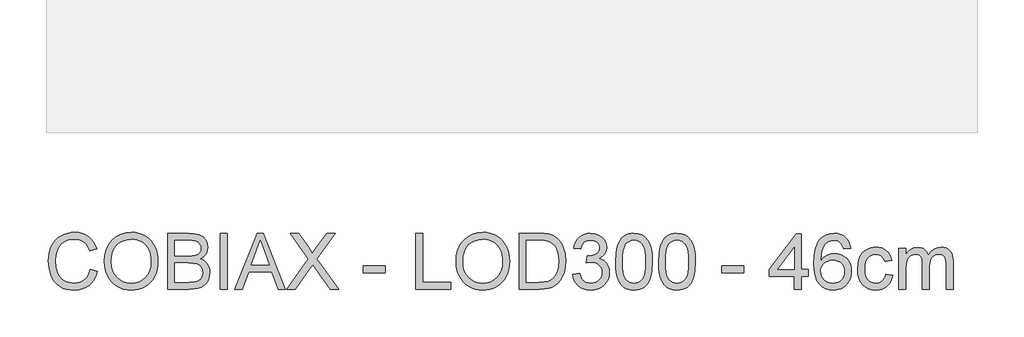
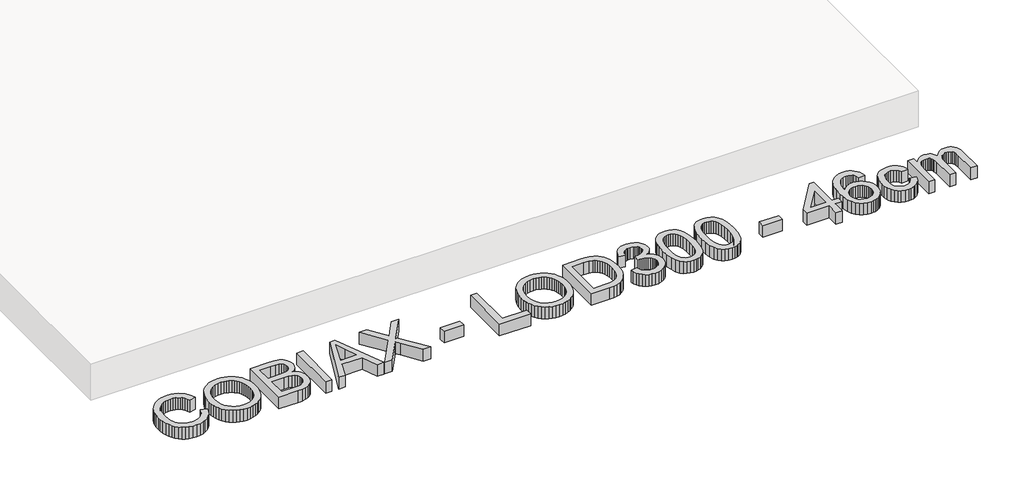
# One storey, part 10 of 18: 1 proxy.
"""IFC4 building model written with IfcOpenShell, lengths in millimetres."""

from ifc_helpers import new_model, si_unit, origin, origin_with_axes, place, context, project, spatial, polyline, outline, extrude, element, save

model = new_model("IFC4")

# Units and contexts
model_context = context("Model", 3, world=origin())
ifc_project = project(units=[si_unit("LENGTHUNIT", "METRE", prefix="MILLI")], contexts=[model_context])

# Site, building, storey
site = spatial("IfcSite", under=ifc_project)
building = spatial("IfcBuilding", under=site)
storey = spatial("IfcBuildingStorey", under=building, Name="COBIAX Slabs", Elevation=0.0)

# Proxy
placement = place(None, origin())
element("IfcBuildingElementProxy", 1, Name="600mm Arial", ObjectType="600mm Arial", at=placement, inside=storey, context=model_context, shape_type="SweptSolid", body=[
    extrude(outline(polyline([(9798.2153953, -42620.9127725), (9873.5576279, -42640.3369419), (9858.64921, -42687.1913125), (9838.7927794, -42728.13198), (9813.9883358, -42763.1589445), (9784.2358795, -42792.2722059), (9750.2067949, -42815.1590645), (9712.5724668, -42831.5068207), (9671.3328952, -42841.3154744), (9626.4880799, -42844.5850256), (9580.5442173, -42842.1110192), (9539.097712, -42834.6889999), (9502.1485641, -42822.3189678), (9469.6967736, -42805.0009229), (9441.2962836, -42782.9923826), (9416.5010371, -42756.5508642), (9395.3110342, -42725.6763677), (9377.7262748, -42690.3688932), (9363.9169044, -42652.155151), (9354.0530684, -42612.5618512), (9348.1347668, -42571.588994), (9346.1619996, -42529.2365793), (9348.3922842, -42483.7939559), (9355.083138, -42441.3495707), (9366.234561, -42401.9034238), (9381.8465531, -42365.4555151), (9401.5696266, -42332.6082514), (9425.0542935, -42303.9640396), (9452.3005538, -42279.5228795), (9483.3084074, -42259.2847713), (9517.0247923, -42243.4152617), (9552.3966461, -42232.0798977), (9589.4239689, -42225.2786793), (9628.1067607, -42223.0116065), (9671.1995379, -42225.9454655), (9710.7146627, -42234.7470422), (9746.6521351, -42249.4163368), (9779.0119551, -42269.9533491), (9807.2606938, -42295.8154534), (9830.8649224, -42326.4600236), (9849.8246407, -42361.8870597), (9864.1398488, -42402.0965618), (9788.7976162, -42420.0492032), (9776.9334219, -42390.420907), (9762.6779946, -42365.1060272), (9746.0313343, -42344.1045638), (9726.993441, -42327.4165168), (9705.4539502, -42314.7015953), (9681.3024972, -42305.6195086), (9654.5390821, -42300.1702565), (9625.1637048, -42298.3538392), (9591.3645465, -42300.3679931), (9560.4532618, -42306.4104549), (9532.4298508, -42316.4812245), (9507.2943135, -42330.5803019), (9485.3639481, -42348.0730908), (9466.9560527, -42368.3249946), (9452.0706275, -42391.3360134), (9440.7076724, -42417.1061472), (9426.3050923, -42472.2516583), (9421.5042322, -42529.0894265), (9427.1880091, -42598.6927), (9434.2927301, -42629.9626696), (9444.2393395, -42658.8781944), (9457.1887858, -42684.8644589), (9473.3020171, -42707.3466473), (9492.5790337, -42726.3247597), (9515.0198354, -42741.7987961), (9539.5345719, -42753.8055448), (9565.0333926, -42762.3817938), (9591.5162978, -42767.5275432), (9618.9832872, -42769.242793), (9651.7385804, -42766.9067423), (9681.8727143, -42759.8985903), (9709.385689, -42748.218337), (9734.2775045, -42731.8659823), (9755.9595496, -42710.9151027), (9773.8432131, -42685.4392745), (9787.928495, -42655.4384978), (9798.2153953, -42620.9127725)])), origin_with_axes(), (0.0, 0.0, 1.0), 150.0),
    extrude(outline(polyline([(9948.8998605, -42541.7445672), (9953.9214497, -42471.0468447), (9968.9862175, -42408.4609203), (9994.0941636, -42353.9867939), (10010.4143286, -42329.7916549), (10029.2452883, -42307.6244654), (10072.3334669, -42270.6063397), (10121.2525753, -42244.1648213), (10176.0026132, -42228.2999102), (10236.5835807, -42223.0116065), (10277.1333737, -42225.49481), (10315.6414215, -42232.9444204), (10352.1077243, -42245.3604378), (10386.532282, -42262.742862), (10417.9494044, -42284.5674614), (10445.3934012, -42310.310004), (10468.8642725, -42339.9704899), (10488.3620182, -42373.548919), (10503.6843033, -42410.2819362), (10514.6287927, -42449.4061864), (10521.1954863, -42490.9216695), (10523.3843842, -42534.8283857), (10521.0805232, -42579.3145159), (10514.1689402, -42621.3910191), (10502.6496352, -42661.0578953), (10486.5226083, -42698.3151443), (10466.1695369, -42732.178682), (10441.9720986, -42761.6644239), (10413.9302936, -42786.7723701), (10382.0441216, -42807.5025205), (10347.5689802, -42823.7261165), (10311.7602665, -42835.3143993), (10274.6179805, -42842.267369), (10236.1421223, -42844.5850256), (10194.8841566, -42842.0236472), (10155.870271, -42834.339512), (10119.1004656, -42821.5326201), (10084.5747403, -42803.6029713), (10053.1944061, -42781.2449431), (10025.8607739, -42755.1529126), (10002.5738436, -42725.3268798), (9983.3336153, -42691.7668448), (9968.2688476, -42655.8201753), (9957.5082992, -42618.8342393), (9951.0519702, -42580.8090365), (9948.8998605, -42541.7445672)]), holes=[polyline([(10024.2420931, -42542.4803312), (10028.0082851, -42592.4295091), (10039.3068608, -42636.7684865), (10058.1378205, -42675.4972636), (10084.5011639, -42708.6158402), (10116.5482842, -42735.140132), (10152.4305743, -42754.0860548), (10192.1480343, -42765.4536084), (10235.700664, -42769.242793), (10279.9982547, -42765.4168202), (10320.1847641, -42753.938902), (10356.2601923, -42734.8090382), (10388.2245392, -42708.027229), (10414.3947446, -42674.2096766), (10433.0877485, -42633.9725834), (10444.3035508, -42587.3159493), (10448.0421516, -42534.2397745), (10446.4418649, -42499.7600345), (10441.6410049, -42467.5427687), (10433.6395715, -42437.5879773), (10422.4375647, -42409.8956601), (10408.1591448, -42384.8291007), (10390.9284718, -42362.7515824), (10370.7455459, -42343.6631054), (10347.6103669, -42327.5636696), (10322.2403048, -42314.7843688), (10295.3527295, -42305.6562968), (10266.9476409, -42300.1794536), (10237.0250391, -42298.3538392), (10194.9853241, -42301.8717107), (10155.9806356, -42312.4253255), (10120.0109735, -42330.0146834), (10087.0763379, -42354.6397844), (10059.5863558, -42387.4870481), (10039.9506543, -42429.7428937), (10028.1692334, -42481.4073214), (10024.2420931, -42542.4803312)])]), origin_with_axes(), (0.0, 0.0, 1.0), 150.0),
    extrude(outline(polyline([(10626.979954, -42835.1672465), (10626.979954, -42232.4293856), (10856.9797774, -42232.4293856), (10920.2370865, -42236.8623637), (10969.6252443, -42250.1612978), (10989.7024042, -42260.2182718), (11007.4803016, -42272.6572818), (11022.9589366, -42287.4783277), (11036.1383091, -42304.6814095), (11054.1829209, -42342.3525258), (11060.1977915, -42381.7894757), (11055.1394141, -42418.0810345), (11039.9642818, -42452.2020895), (11014.56203, -42482.0557135), (10978.8222942, -42505.5449788), (11001.562, -42515.2386694), (11021.5149998, -42527.8386278), (11038.6812934, -42543.3448538), (11053.0608808, -42561.7573477), (11064.423836, -42582.5150893), (11072.5402325, -42605.0570585), (11077.4100704, -42629.3832555), (11079.0333497, -42655.4936801), (11074.6003717, -42697.524198), (11061.3014375, -42736.5012954), (11041.4542039, -42769.6474632), (11017.3763273, -42794.1851923), (10987.8905854, -42811.9538926), (10951.8197558, -42824.7929743), (10907.986616, -42832.5736785), (10855.2139438, -42835.1672465), (10626.979954, -42835.1672465)]), holes=[polyline([(10702.3221866, -42477.2916416), (10839.9100528, -42477.2916416), (10888.0290178, -42475.6729608), (10920.2554806, -42470.8169185), (10948.3800591, -42459.6516999), (10968.5951747, -42442.9314633), (10980.7904629, -42420.9137259), (10984.8555589, -42393.8560051), (10981.0663744, -42367.5892307), (10969.6988207, -42344.7069706), (10951.2679328, -42326.8462997), (10926.2887453, -42315.6442929), (10887.9554414, -42309.7397869), (10829.4622042, -42307.7716182), (10702.3221866, -42307.7716182), (10702.3221866, -42477.2916416)]), polyline([(10702.3221866, -42759.8250139), (10856.8326246, -42759.8250139), (10912.7506879, -42756.8819579), (10938.7047626, -42750.3520525), (10960.0603125, -42740.474421), (10977.4243426, -42726.3293582), (10991.4038584, -42706.9971594), (11000.6193024, -42683.3423471), (11003.6911171, -42656.2294441), (11000.0858735, -42624.7387453), (10989.2701429, -42597.6626304), (10970.3794024, -42576.4910216), (10942.5491295, -42562.7138409), (10903.1305737, -42555.1538659), (10849.4749847, -42552.6338742), (10702.3221866, -42552.6338742), (10702.3221866, -42759.8250139)])]), origin_with_axes(), (0.0, 0.0, 1.0), 150.0),
    extrude(outline(polyline([(11192.0466986, -42835.1672465), (11192.0466986, -42232.4293856), (11267.3889312, -42232.4293856), (11267.3889312, -42835.1672465), (11192.0466986, -42835.1672465)])), origin_with_axes(), (0.0, 0.0, 1.0), 150.0),
    extrude(outline(polyline([(11347.8815118, -42835.1672465), (11588.4763366, -42232.4293856), (11652.6349566, -42232.4293856), (11893.2297814, -42835.1672465), (11813.6201177, -42835.1672465), (11744.6054554, -42646.811665), (11496.358685, -42646.811665), (11427.4911755, -42835.1672465), (11347.8815118, -42835.1672465)]), holes=[polyline([(11524.0234111, -42571.4694324), (11717.0878821, -42571.4694324), (11662.7884996, -42423.2865647), (11620.5556466, -42307.7716182), (11583.0316831, -42410.3371185), (11524.0234111, -42571.4694324)])]), origin_with_axes(), (0.0, 0.0, 1.0), 150.0),
    extrude(outline(polyline([(11907.7979084, -42835.1672465), (12140.1521766, -42506.7222012), (11945.4690247, -42232.4293856), (12035.8208428, -42232.4293856), (12145.4496773, -42386.7926708), (12171.6060872, -42425.8985269), (12182.3850296, -42446.9781652), (12225.6479523, -42385.7626012), (12334.0995644, -42232.4293856), (12425.7757576, -42232.4293856), (12231.0926058, -42507.605118), (12463.4468739, -42835.1672465), (12373.0950559, -42835.1672465), (12218.2903124, -42616.7924942), (12186.0638496, -42571.4694324), (12150.6000252, -42621.2070781), (11999.4741016, -42835.1672465), (11907.7979084, -42835.1672465)])), origin_with_axes(), (0.0, 0.0, 1.0), 150.0),
    extrude(outline(polyline([(12727.1446881, -42656.2294441), (12727.1446881, -42580.8872115), (12962.589165, -42580.8872115), (12962.589165, -42656.2294441), (12727.1446881, -42656.2294441)])), origin_with_axes(), (0.0, 0.0, 1.0), 150.0),
    extrude(outline(polyline([(13292.2114327, -42835.1672465), (13292.2114327, -42232.4293856), (13367.5536653, -42232.4293856), (13367.5536653, -42759.8250139), (13668.9225957, -42759.8250139), (13668.9225957, -42835.1672465), (13292.2114327, -42835.1672465)])), origin_with_axes(), (0.0, 0.0, 1.0), 150.0),
    extrude(outline(polyline([(13725.4292702, -42541.7445672), (13730.4508594, -42471.0468447), (13745.5156271, -42408.4609203), (13770.6235733, -42353.9867939), (13786.9437383, -42329.7916549), (13805.7746979, -42307.6244654), (13848.8628766, -42270.6063397), (13897.7819849, -42244.1648213), (13952.5320229, -42228.2999102), (14013.1129904, -42223.0116065), (14053.6627833, -42225.49481), (14092.1708312, -42232.9444204), (14128.637134, -42245.3604378), (14163.0616917, -42262.742862), (14194.4788141, -42284.5674614), (14221.9228109, -42310.310004), (14245.3936822, -42339.9704899), (14264.8914279, -42373.548919), (14280.213713, -42410.2819362), (14291.1582024, -42449.4061864), (14297.724896, -42490.9216695), (14299.9137939, -42534.8283857), (14297.6099329, -42579.3145159), (14290.6983499, -42621.3910191), (14279.1790449, -42661.0578953), (14263.052018, -42698.3151443), (14242.6989466, -42732.178682), (14218.5015083, -42761.6644239), (14190.4597033, -42786.7723701), (14158.5735313, -42807.5025205), (14124.0983898, -42823.7261165), (14088.2896761, -42835.3143993), (14051.1473902, -42842.267369), (14012.671532, -42844.5850256), (13971.4135663, -42842.0236472), (13932.3996807, -42834.339512), (13895.6298753, -42821.5326201), (13861.10415, -42803.6029713), (13829.7238158, -42781.2449431), (13802.3901836, -42755.1529126), (13779.1032533, -42725.3268798), (13759.8630249, -42691.7668448), (13744.7982572, -42655.8201753), (13734.0377089, -42618.8342393), (13727.5813799, -42580.8090365), (13725.4292702, -42541.7445672)]), holes=[polyline([(13800.7715028, -42542.4803312), (13804.5376947, -42592.4295091), (13815.8362705, -42636.7684865), (13834.6672301, -42675.4972636), (13861.0305736, -42708.6158402), (13893.0776939, -42735.140132), (13928.959984, -42754.0860548), (13968.6774439, -42765.4536084), (14012.2300736, -42769.242793), (14056.5276644, -42765.4168202), (14096.7141738, -42753.938902), (14132.789602, -42734.8090382), (14164.7539488, -42708.027229), (14190.9241543, -42674.2096766), (14209.6171582, -42633.9725834), (14220.8329605, -42587.3159493), (14224.5715613, -42534.2397745), (14222.9712746, -42499.7600345), (14218.1704145, -42467.5427687), (14210.1689811, -42437.5879773), (14198.9669744, -42409.8956601), (14184.6885545, -42384.8291007), (14167.4578815, -42362.7515824), (14147.2749555, -42343.6631054), (14124.1397766, -42327.5636696), (14098.7697145, -42314.7843688), (14071.8821392, -42305.6562968), (14043.4770506, -42300.1794536), (14013.5544488, -42298.3538392), (13971.5147338, -42301.8717107), (13932.5100453, -42312.4253255), (13896.5403832, -42330.0146834), (13863.6057476, -42354.6397844), (13836.1157655, -42387.4870481), (13816.480064, -42429.7428937), (13804.6986431, -42481.4073214), (13800.7715028, -42542.4803312)])]), origin_with_axes(), (0.0, 0.0, 1.0), 150.0),
    extrude(outline(polyline([(14403.5093637, -42835.1672465), (14403.5093637, -42232.4293856), (14611.4362674, -42232.4293856), (14673.5715364, -42234.5998894), (14719.0049628, -42241.1114007), (14767.0503513, -42257.8500315), (14807.5909472, -42284.2271705), (14829.9305814, -42305.7850555), (14849.2719773, -42330.1388435), (14865.6151349, -42357.2885348), (14878.9600543, -42387.2341292), (14889.3251295, -42419.6997153), (14896.7287546, -42454.4093815), (14902.6516548, -42530.5609545), (14898.641741, -42595.2530034), (14886.6119998, -42652.1827421), (14868.2914764, -42700.651195), (14845.4092163, -42739.9593862), (14819.0688655, -42770.9902325), (14790.3740698, -42794.6266507), (14757.4302372, -42812.1562277), (14718.3427752, -42824.8665507), (14673.0381075, -42832.5920726), (14621.4426577, -42835.1672465), (14403.5093637, -42835.1672465)]), holes=[polyline([(14478.8515963, -42759.8250139), (14612.1720314, -42759.8250139), (14667.3175425, -42757.1026871), (14709.1457253, -42748.9357069), (14740.7100005, -42735.8023196), (14765.0637886, -42718.1807721), (14791.2385925, -42685.5680332), (14810.9018852, -42643.3535742), (14823.2075379, -42591.3534542), (14827.3094222, -42529.3837321), (14825.2998668, -42485.6425629), (14819.2712006, -42447.2724708), (14809.2234236, -42414.2734558), (14795.1565358, -42386.645518), (14778.2109714, -42363.7632579), (14759.5271645, -42345.0012761), (14739.1051153, -42330.3595727), (14716.9448236, -42319.8381477), (14673.6083246, -42310.7882506), (14610.1118922, -42307.7716182), (14478.8515963, -42307.7716182), (14478.8515963, -42759.8250139)])]), origin_with_axes(), (0.0, 0.0, 1.0), 150.0),
    extrude(outline(polyline([(14977.9938874, -42675.0650022), (15053.33612, -42665.6472231), (15070.2035095, -42712.9936359), (15081.5756616, -42730.900292), (15094.9067854, -42744.9625813), (15110.5003835, -42755.5851739), (15128.6599585, -42763.1727401), (15149.3855104, -42767.7252798), (15172.6770392, -42769.242793), (15199.9738833, -42767.1550627), (15224.3276713, -42760.8918717), (15245.7384035, -42750.4532201), (15264.2060796, -42735.8391078), (15279.0777093, -42718.1439839), (15289.7003019, -42698.4622971), (15296.0738575, -42676.7940476), (15298.198376, -42653.1392353), (15296.0922516, -42630.6110616), (15289.7738783, -42610.115436), (15279.2432562, -42591.6523583), (15264.5003852, -42575.2218287), (15246.5109557, -42561.7343551), (15226.2406577, -42552.1004453), (15203.6894914, -42546.3200995), (15178.8574567, -42544.3933175), (15155.0554917, -42546.4534567), (15126.0296022, -42552.6338742), (15134.4173117, -42477.2916416), (15146.4838412, -42478.1745584), (15191.622962, -42472.7666931), (15231.9796168, -42456.5430971), (15248.5894889, -42444.2742325), (15260.4536833, -42429.0991002), (15267.5721999, -42411.0177002), (15269.9450388, -42390.0300324), (15268.2251904, -42372.9924975), (15263.0656454, -42357.4908699), (15254.4664038, -42343.5251496), (15242.4274655, -42331.0953367), (15227.6753975, -42320.8912099), (15210.9367667, -42313.6025479), (15171.4998168, -42307.7716182), (15150.8432428, -42309.2431462), (15131.9892906, -42313.6577302), (15114.9379601, -42321.0153701), (15099.6892514, -42331.3160659), (15086.6202435, -42344.5598178), (15076.1080155, -42360.7466255), (15068.1525673, -42379.8764893), (15062.7538991, -42401.949409), (14987.4116665, -42392.5316299), (14996.3420019, -42356.5619678), (15009.5949508, -42324.878131), (15027.1705131, -42297.4801194), (15049.0686888, -42274.3679331), (15074.5996993, -42256.0198186), (15103.0737657, -42242.9140225), (15134.4908881, -42235.0505448), (15168.8510665, -42232.4293856), (15216.2158734, -42237.5981277), (15259.7179193, -42253.1043538), (15296.3957542, -42277.5685064), (15323.2879281, -42309.6110282), (15339.7874355, -42346.5279864), (15345.2872714, -42385.6154484), (15340.063347, -42422.0357659), (15324.391574, -42455.0715691), (15298.4926816, -42483.2145417), (15262.5873988, -42504.9563677), (15287.695345, -42512.8106482), (15309.7498706, -42524.012655), (15328.7509757, -42538.5623879), (15344.6986602, -42556.459847), (15357.3170126, -42577.2635738), (15366.3301215, -42600.53211), (15371.7379868, -42626.2654556), (15373.5406086, -42654.4636105), (15369.935365, -42692.6865498), (15359.1196344, -42727.8928567), (15341.0934166, -42760.0825313), (15315.8567117, -42789.2555735), (15285.110974, -42813.4622088), (15250.5576576, -42830.7526626), (15212.1967626, -42841.1269348), (15170.0282889, -42844.5850256), (15131.9157142, -42841.6327726), (15097.1876538, -42832.7760136), (15065.8441078, -42818.0147485), (15037.8850762, -42797.3489774), (15014.4417961, -42771.9927109), (14996.6455045, -42743.1599595), (14984.4962016, -42710.8507233), (14977.9938874, -42675.0650022)])), origin_with_axes(), (0.0, 0.0, 1.0), 150.0),
    extrude(outline(polyline([(15439.4650621, -42538.6543584), (15445.0016862, -42442.1773052), (15451.9224662, -42401.2642288), (15461.6115582, -42365.2347859), (15474.0275756, -42333.7946709), (15489.1291315, -42306.6495782), (15506.9162259, -42283.7995077), (15527.388859, -42265.2444596), (15550.6160084, -42250.8878647), (15576.6666522, -42240.6331541), (15605.5407903, -42234.4803277), (15637.2384227, -42232.4293856), (15683.6651305, -42237.285428), (15725.235796, -42251.853555), (15760.0006445, -42275.5635496), (15786.0099016, -42307.8451946), (15805.6548001, -42348.4225787), (15821.3265731, -42397.0197903), (15831.5904808, -42458.731995), (15835.0117833, -42538.6543584), (15829.5303416, -42634.5795887), (15822.6785395, -42675.3547093), (15813.0860164, -42711.3381669), (15800.7665681, -42742.7920775), (15785.7339901, -42769.978557), (15767.9882823, -42792.8976053), (15747.5294449, -42811.5492224), (15724.2747043, -42826.0023863), (15698.141287, -42836.3260748), (15669.1291932, -42842.5202879), (15637.2384227, -42844.5850256), (15595.7413337, -42840.9981761), (15558.9531342, -42830.2376278), (15526.8738242, -42812.3033805), (15499.5034037, -42787.1954344), (15473.2366293, -42741.8079932), (15454.4746475, -42685.2553335), (15443.2174585, -42617.5374552), (15439.4650621, -42538.6543584)]), holes=[polyline([(15514.8072947, -42538.5072056), (15517.0145867, -42604.0039963), (15523.6364626, -42657.0203904), (15534.6729225, -42697.5563877), (15550.1239663, -42725.6119884), (15568.8123716, -42744.7004654), (15589.5609162, -42758.3350918), (15612.3695999, -42766.5158677), (15637.2384227, -42769.242793), (15662.1072456, -42766.5066706), (15684.9159293, -42758.2983036), (15705.6644738, -42744.6176919), (15724.3528792, -42725.4648356), (15739.803923, -42697.3632497), (15750.8403828, -42656.8364494), (15757.4622588, -42603.8844347), (15759.6695507, -42538.5072056), (15757.5358352, -42474.7440588), (15751.1346884, -42422.6611653), (15740.4661106, -42382.2585252), (15725.5301016, -42353.5361384), (15707.1543959, -42333.5141608), (15686.1667281, -42319.2127483), (15662.5670981, -42310.6319007), (15636.3555059, -42307.7716182), (15611.6154418, -42310.2916099), (15589.1930342, -42317.8515849), (15569.0882831, -42330.4515432), (15551.3011887, -42348.0914849), (15535.3351101, -42379.3614545), (15523.9307682, -42421.5207311), (15517.0881631, -42474.5693149), (15514.8072947, -42538.5072056)])]), origin_with_axes(), (0.0, 0.0, 1.0), 150.0),
    extrude(outline(polyline([(15900.9362369, -42538.6543584), (15906.4728609, -42442.1773052), (15913.3936409, -42401.2642288), (15923.082733, -42365.2347859), (15935.4987503, -42333.7946709), (15950.6003062, -42306.6495782), (15968.3874007, -42283.7995077), (15988.8600337, -42265.2444596), (16012.0871832, -42250.8878647), (16038.137827, -42240.6331541), (16067.0119651, -42234.4803277), (16098.7095975, -42232.4293856), (16145.1363053, -42237.285428), (16186.7069707, -42251.853555), (16221.4718193, -42275.5635496), (16247.4810763, -42307.8451946), (16267.1259749, -42348.4225787), (16282.7977479, -42397.0197903), (16293.0616555, -42458.731995), (16296.4829581, -42538.6543584), (16291.0015164, -42634.5795887), (16284.1497142, -42675.3547093), (16274.5571912, -42711.3381669), (16262.2377429, -42742.7920775), (16247.2051648, -42769.978557), (16229.4594571, -42792.8976053), (16209.0006196, -42811.5492224), (16185.745879, -42826.0023863), (16159.6124618, -42836.3260748), (16130.6003679, -42842.5202879), (16098.7095975, -42844.5850256), (16057.2125084, -42840.9981761), (16020.4243089, -42830.2376278), (15988.3449989, -42812.3033805), (15960.9745785, -42787.1954344), (15934.707804, -42741.8079932), (15915.9458223, -42685.2553335), (15904.6886332, -42617.5374552), (15900.9362369, -42538.6543584)]), holes=[polyline([(15976.2784695, -42538.5072056), (15978.4857615, -42604.0039963), (15985.1076374, -42657.0203904), (15996.1440972, -42697.5563877), (16011.595141, -42725.6119884), (16030.2835464, -42744.7004654), (16051.0320909, -42758.3350918), (16073.8407746, -42766.5158677), (16098.7095975, -42769.242793), (16123.5784204, -42766.5066706), (16146.3871041, -42758.2983036), (16167.1356486, -42744.6176919), (16185.8240539, -42725.4648356), (16201.2750977, -42697.3632497), (16212.3115576, -42656.8364494), (16218.9334335, -42603.8844347), (16221.1407255, -42538.5072056), (16219.0070099, -42474.7440588), (16212.6058632, -42422.6611653), (16201.9372853, -42382.2585252), (16187.0012763, -42353.5361384), (16168.6255707, -42333.5141608), (16147.6379028, -42319.2127483), (16124.0382729, -42310.6319007), (16097.8266807, -42307.7716182), (16073.0866165, -42310.2916099), (16050.6642089, -42317.8515849), (16030.5594579, -42330.4515432), (16012.7723634, -42348.0914849), (15996.8062848, -42379.3614545), (15985.401943, -42421.5207311), (15978.5593379, -42474.5693149), (15976.2784695, -42538.5072056)])]), origin_with_axes(), (0.0, 0.0, 1.0), 150.0),
    extrude(outline(polyline([(16579.0163304, -42656.2294441), (16579.0163304, -42580.8872115), (16814.4608073, -42580.8872115), (16814.4608073, -42656.2294441), (16579.0163304, -42656.2294441)])), origin_with_axes(), (0.0, 0.0, 1.0), 150.0),
    extrude(outline(polyline([(17360.6919937, -42835.1672465), (17360.6919937, -42693.9005604), (17087.5764005, -42693.9005604), (17087.5764005, -42618.5583278), (17379.5275519, -42241.8471647), (17436.0342264, -42241.8471647), (17436.0342264, -42618.5583278), (17511.376459, -42618.5583278), (17511.376459, -42693.9005604), (17436.0342264, -42693.9005604), (17436.0342264, -42835.1672465), (17360.6919937, -42835.1672465)]), holes=[polyline([(17360.6919937, -42618.5583278), (17360.6919937, -42385.7626012), (17180.2826633, -42618.5583278), (17360.6919937, -42618.5583278)])]), origin_with_axes(), (0.0, 0.0, 1.0), 150.0),
    extrude(outline(polyline([(17963.4298546, -42392.5316299), (17888.087622, -42401.949409), (17875.9475162, -42364.6093865), (17859.5399792, -42339.1151642), (17843.3439744, -42325.4023629), (17825.3637418, -42315.6075047), (17805.5992817, -42309.7305899), (17784.0505938, -42307.7716182), (17749.0282278, -42312.333355), (17716.0660011, -42326.0185652), (17687.7574816, -42354.8421195), (17664.6360982, -42394.5181927), (17655.5999966, -42419.8238754), (17649.0195075, -42450.6385911), (17643.225366, -42528.7951209), (17673.4468719, -42493.5336317), (17709.6648544, -42468.6832029), (17749.8559623, -42453.949529), (17791.9968449, -42449.0383044), (17828.1964332, -42452.3952276), (17861.6001184, -42462.4659972), (17892.2079004, -42479.2506132), (17920.0197792, -42502.7490757), (17943.1319656, -42531.563433), (17959.6406701, -42564.2957335), (17969.5458928, -42600.9459772), (17972.8476337, -42641.5141643), (17971.2933323, -42668.9811537), (17966.630428, -42695.4640589), (17958.8589208, -42720.9628796), (17947.9788108, -42745.4776161), (17934.3763741, -42768.0931618), (17918.4378866, -42787.8944101), (17900.1633485, -42804.8813613), (17879.5527597, -42819.0540151), (17857.0475787, -42830.2238322), (17833.0892637, -42838.202273), (17807.6778149, -42842.9893374), (17780.8132322, -42844.5850256), (17735.8994391, -42840.3543827), (17695.3358507, -42827.6624538), (17659.1224668, -42806.5092391), (17627.2592874, -42776.8947385), (17601.2822201, -42737.5681532), (17582.7271719, -42687.2786845), (17571.5941431, -42626.0263323), (17567.8831334, -42553.8110966), (17572.0034118, -42472.8494665), (17584.3642468, -42403.7520308), (17604.9656385, -42346.5187894), (17618.3565432, -42322.3512416), (17633.807587, -42301.1497423), (17665.0683595, -42271.0845863), (17701.3139331, -42249.6094748), (17742.5443077, -42236.7244079), (17788.7594833, -42232.4293856), (17823.4599525, -42235.087333), (17854.8678779, -42243.0611753), (17882.9832593, -42256.3509124), (17907.806097, -42274.9565443), (17928.6650061, -42298.2526716), (17944.8886021, -42325.613895), (17956.4768849, -42357.0402144), (17963.4298546, -42392.5316299)]), holes=[polyline([(17643.225366, -42640.3369419), (17647.5847677, -42673.7222329), (17660.6629726, -42705.5992078), (17680.9700587, -42733.0064165), (17707.016104, -42752.9824088), (17738.4516205, -42765.1776969), (17774.9271203, -42769.242793), (17801.1157198, -42767.1366686), (17824.646372, -42760.8182953), (17845.5190767, -42750.2876732), (17863.7338339, -42735.5448022), (17878.5088946, -42717.1874907), (17889.0625093, -42695.8135467), (17895.3946782, -42671.4229705), (17897.5054011, -42644.0157618), (17895.4222693, -42617.6800095), (17889.1728739, -42594.2965102), (17878.7572149, -42573.8652639), (17864.1752923, -42556.3862706), (17845.9053528, -42542.3837621), (17824.4256428, -42532.3819704), (17799.7361624, -42526.3808953), (17771.8369115, -42524.380537), (17745.9977999, -42526.3808953), (17722.1912363, -42532.3819704), (17700.4172207, -42542.3837621), (17680.6757531, -42556.3862706), (17664.2912088, -42573.6353376), (17652.5879628, -42593.3768052), (17645.5660152, -42615.6106733), (17643.225366, -42640.3369419)])]), origin_with_axes(), (0.0, 0.0, 1.0), 150.0),
    extrude(outline(polyline([(18340.1410177, -42675.0650022), (18415.4832503, -42684.4827813), (18407.2886789, -42720.0339776), (18394.4771884, -42751.4924867), (18377.0487789, -42778.8583086), (18355.0034503, -42802.1314434), (18329.2701047, -42820.7048856), (18300.7776442, -42833.97163), (18269.5260687, -42841.9316767), (18235.5153783, -42844.5850256), (18193.2595326, -42840.883213), (18155.3722856, -42829.7777753), (18121.8536373, -42811.2687124), (18092.7035877, -42785.3560244), (18069.1085563, -42752.5271548), (18052.2549624, -42713.2695474), (18042.142806, -42667.5832021), (18038.7720873, -42615.468119), (18044.5294405, -42548.4216254), (18051.726132, -42518.2507033), (18061.8015001, -42490.3146642), (18074.8245228, -42465.1745284), (18090.8641778, -42443.3913158), (18109.9204651, -42424.9650263), (18131.9933848, -42409.8956601), (18156.085057, -42398.1786186), (18181.1976017, -42389.8093032), (18207.3310189, -42384.7877139), (18234.4853087, -42383.1138508), (18267.9119865, -42385.4131133), (18298.1472879, -42392.3109007), (18325.1912131, -42403.8072131), (18349.043762, -42419.9020504), (18369.3002643, -42440.2275306), (18385.55605, -42464.4157718), (18397.811119, -42492.4667739), (18406.0654712, -42524.380537), (18330.7232386, -42533.7983161), (18317.0564225, -42500.9280598), (18295.7744491, -42477.365218), (18268.0545407, -42463.1833671), (18235.0739199, -42458.4560835), (18209.4739315, -42460.7829371), (18186.3847378, -42467.7634979), (18165.8063387, -42479.397766), (18147.7387342, -42495.6857414), (18133.0280529, -42517.004503), (18122.5204235, -42543.7311299), (18116.2158458, -42575.8656222), (18114.1143199, -42613.4079798), (18116.1698605, -42651.515956), (18122.3364825, -42684.0229288), (18132.6141857, -42710.9288982), (18147.0029702, -42732.2338643), (18164.7118898, -42748.4252706), (18184.949998, -42759.9905608), (18207.717295, -42766.9297349), (18233.0137807, -42769.242793), (18272.0276663, -42763.4670457), (18288.8996543, -42756.2473615), (18304.0150058, -42746.1398037), (18316.9506564, -42733.0340076), (18327.283542, -42716.8196087), (18335.0136624, -42697.4966069), (18340.1410177, -42675.0650022)])), origin_with_axes(), (0.0, 0.0, 1.0), 150.0),
    extrude(outline(polyline([(18481.4077038, -42835.1672465), (18481.4077038, -42392.5316299), (18556.7499365, -42392.5316299), (18556.7499365, -42465.372265), (18579.4114674, -42431.9133975), (18608.5477214, -42405.7018054), (18643.1654171, -42388.7608395), (18682.2712732, -42383.1138508), (18724.1730325, -42388.8712041), (18742.0061122, -42396.0678956), (18757.7606586, -42406.1432637), (18782.8502107, -42433.7895957), (18799.2577477, -42470.6697657), (18826.7201386, -42432.364053), (18858.0452905, -42405.0028296), (18893.2332033, -42388.5860955), (18932.2838771, -42383.1138508), (18962.4456022, -42385.3901207), (18988.9193103, -42392.2189302), (19011.7050014, -42403.6002795), (19030.8026754, -42419.5341684), (19045.8996328, -42440.204538), (19056.6831738, -42465.7953293), (19063.1532984, -42496.3065422), (19065.3100066, -42531.7381769), (19065.3100066, -42835.1672465), (18989.967774, -42835.1672465), (18989.967774, -42564.1117925), (18988.2203345, -42526.5326467), (18982.9780161, -42501.2039713), (18973.1555668, -42483.8583352), (18957.6677348, -42470.2283073), (18937.7469248, -42461.3991394), (18914.6255414, -42458.4560835), (18893.2745901, -42460.3414787), (18873.809034, -42465.9976644), (18856.2288732, -42475.4246405), (18840.5341075, -42488.6224071), (18827.626048, -42505.9772402), (18818.4060055, -42527.875416), (18812.87398, -42554.3169344), (18811.0299715, -42585.3017954), (18811.0299715, -42835.1672465), (18735.6877389, -42835.1672465), (18735.6877389, -42555.724083), (18731.3283373, -42513.1233479), (18725.8790852, -42496.4031113), (18718.2501323, -42482.7362951), (18708.137976, -42472.1137025), (18695.2391135, -42464.5261364), (18679.553545, -42459.9735967), (18661.0812703, -42458.4560835), (18632.0553809, -42462.5027854), (18605.3103598, -42474.6428912), (18583.2374401, -42494.5820954), (18568.2278547, -42522.0260922), (18559.619416, -42560.1018787), (18556.7499365, -42611.9364518), (18556.7499365, -42835.1672465), (18481.4077038, -42835.1672465)])), origin_with_axes(), (0.0, 0.0, 1.0), 150.0),
])

save(model, "model.ifc")
